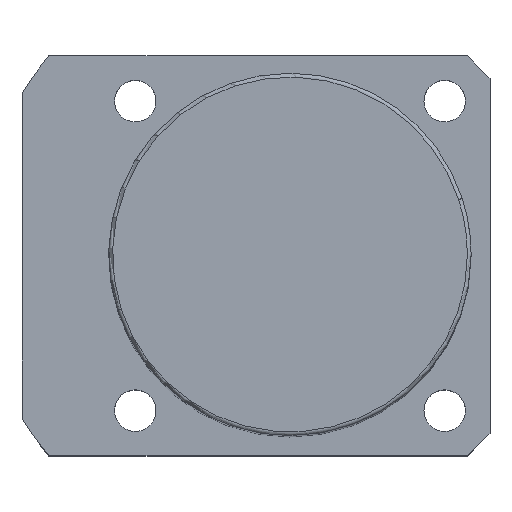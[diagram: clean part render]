
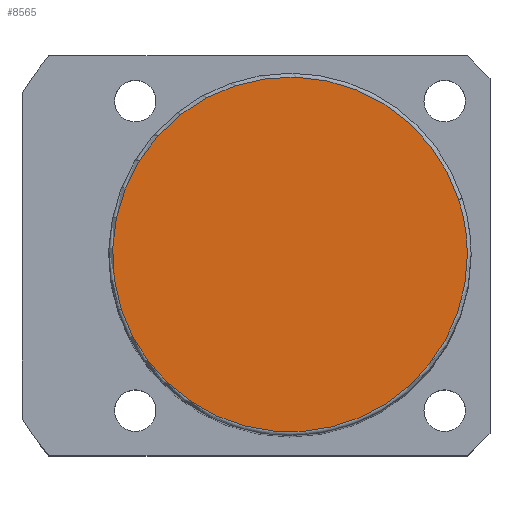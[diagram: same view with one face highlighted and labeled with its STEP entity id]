
A CAD part, top view. The second image highlights one B-rep face of the part: STEP entity #8565.
In plain terms, the highlighted planar face has unit normal (0, 0, 1).
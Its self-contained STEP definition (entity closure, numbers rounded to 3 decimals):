
#8531=CARTESIAN_POINT('',(23.5,0.0,119.0));
#8532=VERTEX_POINT('',#8531);
#8533=CARTESIAN_POINT('',(22.35,7.262,119.0));
#8534=VERTEX_POINT('',#8533);
#8535=CARTESIAN_POINT('',(0.0,0.0,119.0));
#8536=DIRECTION('',(0.0,0.0,1.0));
#8537=DIRECTION('',(1.0,0.0,0.0));
#8538=AXIS2_PLACEMENT_3D('',#8535,#8536,#8537);
#8539=CIRCLE('',#8538,23.5);
#8540=EDGE_CURVE('no 4124',#8532,#8534,#8539,.T.);
#8541=ORIENTED_EDGE('',*,*,#8540,.T.);
#8542=CARTESIAN_POINT('',(-22.35,-7.262,119.0));
#8543=VERTEX_POINT('',#8542);
#8544=CARTESIAN_POINT('',(0.0,0.0,119.0));
#8545=DIRECTION('',(0.0,0.0,1.0));
#8546=DIRECTION('',(1.0,0.0,0.0));
#8547=AXIS2_PLACEMENT_3D('',#8544,#8545,#8546);
#8548=CIRCLE('',#8547,23.5);
#8549=EDGE_CURVE('no 4130',#8534,#8543,#8548,.T.);
#8550=ORIENTED_EDGE('',*,*,#8549,.T.);
#8551=CARTESIAN_POINT('',(0.0,0.0,119.0));
#8552=DIRECTION('',(0.0,0.0,1.0));
#8553=DIRECTION('',(1.0,0.0,0.0));
#8554=AXIS2_PLACEMENT_3D('',#8551,#8552,#8553);
#8555=CIRCLE('',#8554,23.5);
#8556=EDGE_CURVE('no 4134',#8543,#8532,#8555,.T.);
#8557=ORIENTED_EDGE('',*,*,#8556,.T.);
#8558=EDGE_LOOP('',(#8541,#8550,#8557));
#8559=FACE_OUTER_BOUND('',#8558,.T.);
#8560=CARTESIAN_POINT('',(0.0,0.0,119.0));
#8561=DIRECTION('',(0.0,0.0,1.0));
#8562=DIRECTION('',(1.0,0.0,0.0));
#8563=AXIS2_PLACEMENT_3D('',#8560,#8561,#8562);
#8564=PLANE('',#8563);
#8565=ADVANCED_FACE('no 4115',(#8559),#8564,.T.);
